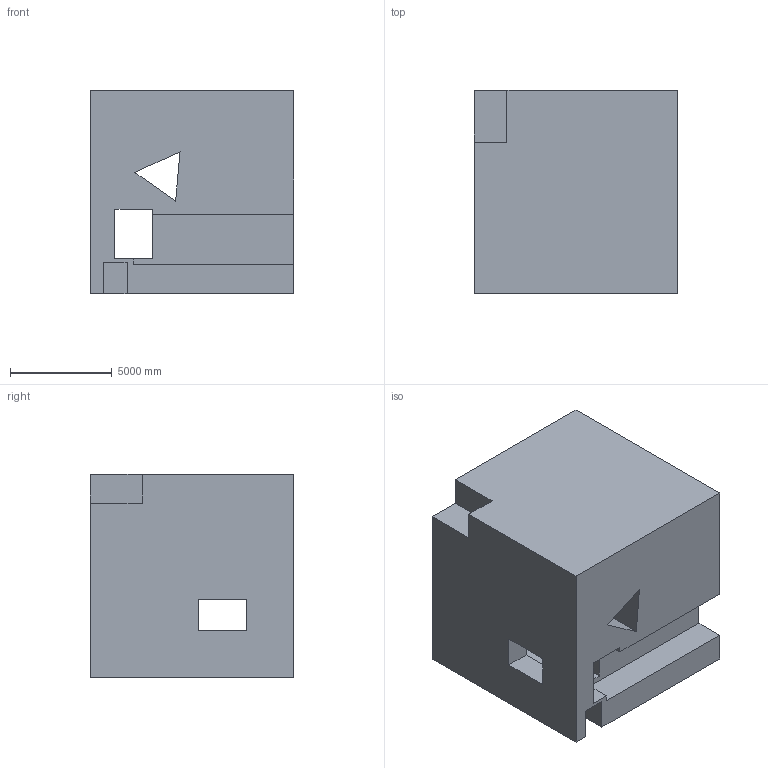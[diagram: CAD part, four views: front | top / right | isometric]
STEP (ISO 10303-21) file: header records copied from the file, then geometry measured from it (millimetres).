
FILE_DESCRIPTION (( 'STEP AP203' ), '1' );
FILE_NAME ('1551.STEP', '2022-08-18T15:44:40', ( 'user' ), ( '' ), 'SwSTEP 2.0', 'SolidWorks 2021', '' );
FILE_SCHEMA (( 'CONFIG_CONTROL_DESIGN' ));
Length unit declared in the file: centimetre
Products named in the file (1): 1551
Bounding box: 10000 x 10000 x 10000 mm (x, y, z)
Volume: 860565991758.9 mm3; surface area: 820538693.7 mm2
Topology: 1 solids, 1 shells, 32 faces, 93 edges, 62 vertices
Faces by surface type: plane 32
Entity records: 1130 total; most frequent: CARTESIAN_POINT 188, ORIENTED_EDGE 186, DIRECTION 159, VECTOR 93, EDGE_CURVE 93, LINE 93, VERTEX_POINT 62, EDGE_LOOP 39
